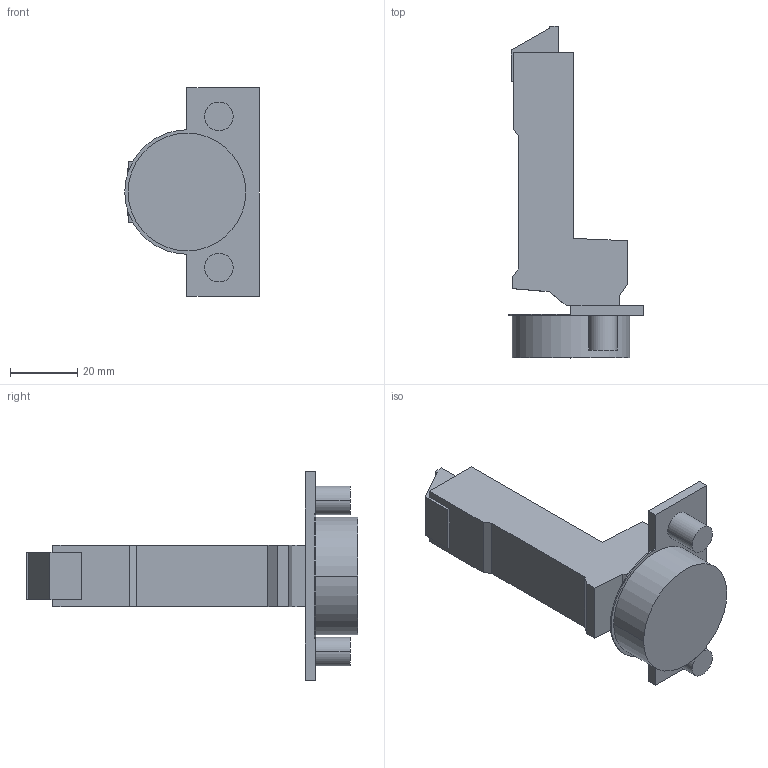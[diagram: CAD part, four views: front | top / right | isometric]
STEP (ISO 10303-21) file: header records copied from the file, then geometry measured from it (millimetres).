
FILE_DESCRIPTION (( 'STEP AP214' ), '1' );
FILE_NAME ('Scharnier T Click-on 110° B_BB, K19_Quick_Dübel.step', '2018-09-12T09:11:38', ( '' ), ( '' ), 'SwSTEP 2.0', 'SolidWorks 2017', '' );
FILE_SCHEMA (( 'AUTOMOTIVE_DESIGN' ));
Length unit declared in the file: millimetre
Products named in the file (1): Scharnier T Click-on 110° B_BB, K19_Quick_Dübel
Bounding box: 40 x 98.7 x 62 mm (x, y, z)
Volume: 46104.5 mm3; surface area: 13077.3 mm2
Topology: 1 solids, 1 shells, 59 faces, 145 edges, 96 vertices
Faces by surface type: plane 41, cylinder 18
Entity records: 1773 total; most frequent: DIRECTION 301, CARTESIAN_POINT 301, ORIENTED_EDGE 290, EDGE_CURVE 145, VECTOR 109, LINE 109, VERTEX_POINT 96, AXIS2_PLACEMENT_3D 96
